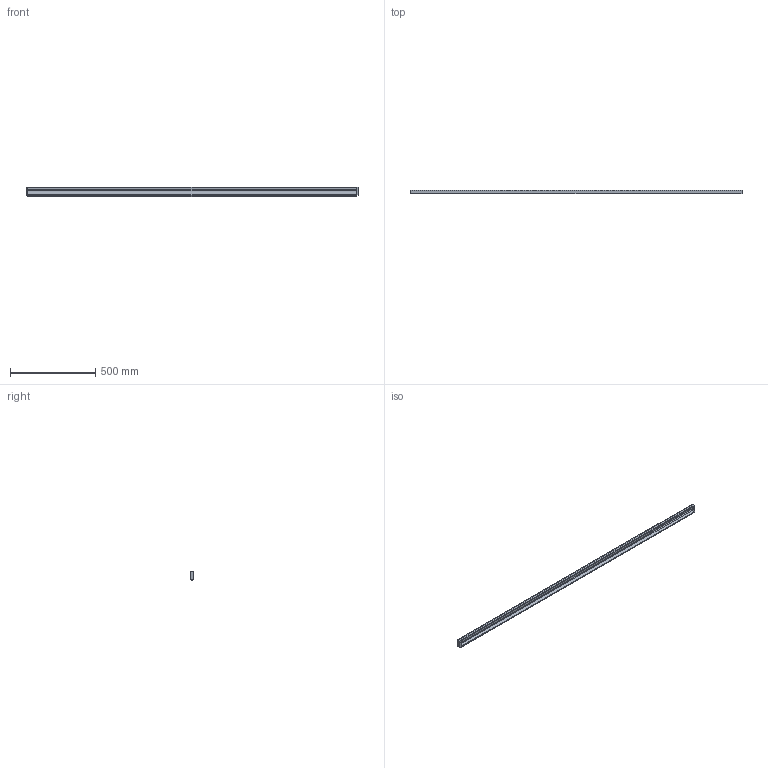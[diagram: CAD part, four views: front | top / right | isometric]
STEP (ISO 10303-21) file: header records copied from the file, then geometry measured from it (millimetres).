
FILE_DESCRIPTION( ( '' ), '1' );
FILE_NAME( 'C:/Documents and Settings/Nikhil/Desktop/Nik/Done/115027.stp', '2013-10-23T08:37:35', ( '' ), ( '' ), ' ', ' ', ' ' );
FILE_SCHEMA( ( 'automotive_design' ) );
Length unit declared in the file: millimetre
Products named in the file (1): 1
Bounding box: 1950 x 21.1 x 56.5 mm (x, y, z)
Volume: 720143.4 mm3; surface area: 427275.5 mm2
Topology: 1 solids, 1 shells, 67 faces, 188 edges, 124 vertices
Faces by surface type: plane 50, cylinder 17
Entity records: 4264 total; most frequent: STYLED_ITEM 380, PRESENTATION_STYLE_ASSIGNMENT 380, CARTESIAN_POINT 380, COLOUR_RGB 380, ORIENTED_EDGE 376, DIRECTION 358, EDGE_CURVE 188, CURVE_STYLE 188
